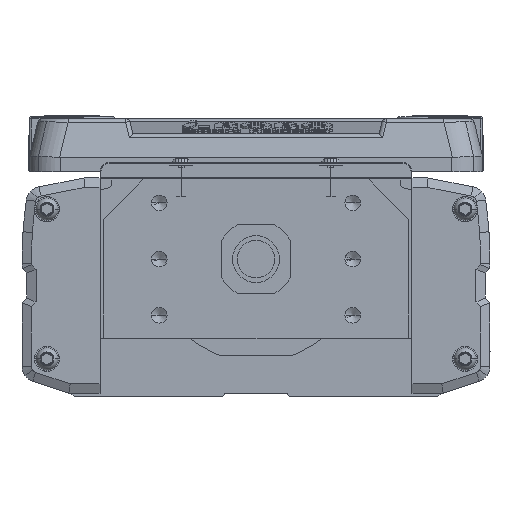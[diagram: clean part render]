
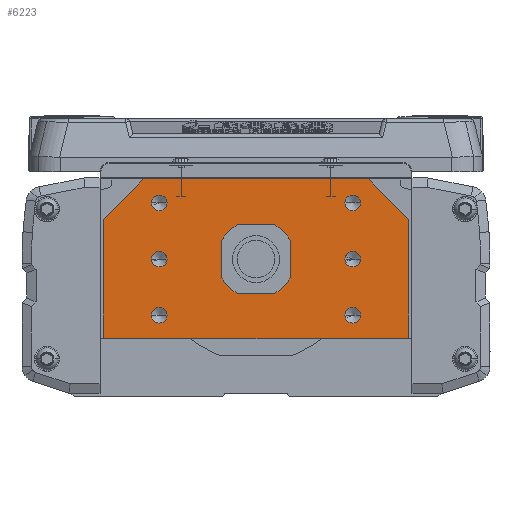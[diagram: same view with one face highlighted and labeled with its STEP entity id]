
A CAD part, left-side view. The second image highlights one B-rep face of the part: STEP entity #6223.
In plain terms, the highlighted planar face has unit normal (-1, 0, 0).
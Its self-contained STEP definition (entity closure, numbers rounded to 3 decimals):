
#6223=ADVANCED_FACE('',(#12692,#12693,#12694,#12695,#12696,#12697,#12698,#12699),#12700,.F.);
#12692=FACE_OUTER_BOUND('',#20624,.T.);
#12693=FACE_BOUND('',#20625,.T.);
#12694=FACE_BOUND('',#20626,.T.);
#12695=FACE_BOUND('',#20627,.T.);
#12696=FACE_BOUND('',#20628,.T.);
#12697=FACE_BOUND('',#20629,.T.);
#12698=FACE_BOUND('',#20630,.T.);
#12699=FACE_BOUND('',#20631,.T.);
#12700=PLANE('',#20632);
#20624=EDGE_LOOP('',(#38468,#38469,#38470,#38471,#38472,#38473,#38474,#38475));
#20625=EDGE_LOOP('',(#38476,#38477));
#20626=EDGE_LOOP('',(#38478,#38479));
#20627=EDGE_LOOP('',(#38480,#38481));
#20628=EDGE_LOOP('',(#38482,#38483));
#20629=EDGE_LOOP('',(#38484,#38485));
#20630=EDGE_LOOP('',(#38486,#38487));
#20631=EDGE_LOOP('',(#38488,#38489));
#20632=AXIS2_PLACEMENT_3D('',#38490,#38491,#38492);
#38468=ORIENTED_EDGE('',*,*,#46884,.F.);
#38469=ORIENTED_EDGE('',*,*,#43631,.F.);
#38470=ORIENTED_EDGE('',*,*,#46536,.F.);
#38471=ORIENTED_EDGE('',*,*,#46698,.F.);
#38472=ORIENTED_EDGE('',*,*,#46786,.F.);
#38473=ORIENTED_EDGE('',*,*,#45275,.F.);
#38474=ORIENTED_EDGE('',*,*,#47259,.F.);
#38475=ORIENTED_EDGE('',*,*,#47218,.F.);
#38476=ORIENTED_EDGE('',*,*,#45951,.T.);
#38477=ORIENTED_EDGE('',*,*,#46352,.T.);
#38478=ORIENTED_EDGE('',*,*,#46280,.T.);
#38479=ORIENTED_EDGE('',*,*,#47260,.T.);
#38480=ORIENTED_EDGE('',*,*,#47120,.T.);
#38481=ORIENTED_EDGE('',*,*,#45205,.T.);
#38482=ORIENTED_EDGE('',*,*,#46343,.T.);
#38483=ORIENTED_EDGE('',*,*,#42285,.T.);
#38484=ORIENTED_EDGE('',*,*,#44521,.T.);
#38485=ORIENTED_EDGE('',*,*,#44351,.T.);
#38486=ORIENTED_EDGE('',*,*,#46139,.T.);
#38487=ORIENTED_EDGE('',*,*,#45040,.T.);
#38488=ORIENTED_EDGE('',*,*,#43405,.F.);
#38489=ORIENTED_EDGE('',*,*,#47174,.F.);
#38490=CARTESIAN_POINT('',(0.,0.275,-2.548));
#38491=DIRECTION('',(1.0,0.,0.));
#38492=DIRECTION('',(0.,1.0,0.));
#42285=EDGE_CURVE('',#51152,#51150,#51153,.T.);
#43405=EDGE_CURVE('',#52966,#52961,#52968,.F.);
#43631=EDGE_CURVE('',#53308,#53304,#53310,.T.);
#44351=EDGE_CURVE('',#54378,#54376,#54379,.T.);
#44521=EDGE_CURVE('',#54376,#54378,#54610,.T.);
#45040=EDGE_CURVE('',#55318,#55316,#55319,.T.);
#45205=EDGE_CURVE('',#55550,#55548,#55551,.T.);
#45275=EDGE_CURVE('',#55645,#55648,#55649,.T.);
#45951=EDGE_CURVE('',#56539,#56541,#56543,.T.);
#46139=EDGE_CURVE('',#55316,#55318,#56775,.T.);
#46280=EDGE_CURVE('',#56937,#56939,#56941,.T.);
#46343=EDGE_CURVE('',#51150,#51152,#57011,.T.);
#46352=EDGE_CURVE('',#56541,#56539,#57020,.T.);
#46536=EDGE_CURVE('',#57230,#53308,#57232,.T.);
#46698=EDGE_CURVE('',#57418,#57230,#57420,.T.);
#46786=EDGE_CURVE('',#55648,#57418,#57517,.T.);
#46884=EDGE_CURVE('',#53304,#57621,#57622,.T.);
#47120=EDGE_CURVE('',#55548,#55550,#57876,.T.);
#47174=EDGE_CURVE('',#52961,#52966,#57933,.F.);
#47218=EDGE_CURVE('',#57621,#57980,#57981,.T.);
#47259=EDGE_CURVE('',#57980,#55645,#58022,.T.);
#47260=EDGE_CURVE('',#56939,#56937,#58023,.T.);
#51150=VERTEX_POINT('',#63232);
#51152=VERTEX_POINT('',#63235);
#51153=CIRCLE('',#63236,2.5);
#52961=VERTEX_POINT('',#65734);
#52966=VERTEX_POINT('',#65740);
#52968=CIRCLE('',#65743,7.5);
#53304=VERTEX_POINT('',#66210);
#53308=VERTEX_POINT('',#66216);
#53310=LINE('',#66219,#66220);
#54376=VERTEX_POINT('',#67667);
#54378=VERTEX_POINT('',#67670);
#54379=CIRCLE('',#67671,2.5);
#54610=CIRCLE('',#68010,2.5);
#55316=VERTEX_POINT('',#69441);
#55318=VERTEX_POINT('',#69444);
#55319=CIRCLE('',#69445,2.5);
#55548=VERTEX_POINT('',#69738);
#55550=VERTEX_POINT('',#69741);
#55551=CIRCLE('',#69742,2.5);
#55645=VERTEX_POINT('',#69853);
#55648=VERTEX_POINT('',#69857);
#55649=LINE('',#69858,#69859);
#56539=VERTEX_POINT('',#71115);
#56541=VERTEX_POINT('',#71118);
#56543=CIRCLE('',#71121,2.5);
#56775=CIRCLE('',#71481,2.5);
#56937=VERTEX_POINT('',#71714);
#56939=VERTEX_POINT('',#71717);
#56941=CIRCLE('',#71720,2.5);
#57011=CIRCLE('',#71836,2.5);
#57020=CIRCLE('',#71846,2.5);
#57230=VERTEX_POINT('',#72170);
#57232=LINE('',#72173,#72174);
#57418=VERTEX_POINT('',#72456);
#57420=LINE('',#72459,#72460);
#57517=LINE('',#72582,#72583);
#57621=VERTEX_POINT('',#72736);
#57622=LINE('',#72737,#72738);
#57876=CIRCLE('',#73309,2.5);
#57933=CIRCLE('',#73379,7.5);
#57980=VERTEX_POINT('',#73437);
#57981=LINE('',#73438,#73439);
#58022=LINE('',#73489,#73490);
#58023=CIRCLE('',#73491,2.5);
#63232=CARTESIAN_POINT('',(0.,-33.5,18.));
#63235=CARTESIAN_POINT('',(0.,-28.5,18.));
#63236=AXIS2_PLACEMENT_3D('',#76801,#76802,#76803);
#65734=CARTESIAN_POINT('',(0.,-7.5,0.));
#65740=CARTESIAN_POINT('',(0.,7.5,0.));
#65743=AXIS2_PLACEMENT_3D('',#78397,#78398,#78399);
#66210=CARTESIAN_POINT('',(0.,49.,12.7));
#66216=CARTESIAN_POINT('',(0.,49.,-25.));
#66219=CARTESIAN_POINT('',(0.,49.,-25.));
#66220=VECTOR('',#78676,10.0);
#67667=CARTESIAN_POINT('',(0.,33.5,0.));
#67670=CARTESIAN_POINT('',(0.,28.5,0.));
#67671=AXIS2_PLACEMENT_3D('',#79647,#79648,#79649);
#68010=AXIS2_PLACEMENT_3D('',#79873,#79874,#79875);
#69441=CARTESIAN_POINT('',(0.,-33.5,0.));
#69444=CARTESIAN_POINT('',(0.,-28.5,0.));
#69445=AXIS2_PLACEMENT_3D('',#80475,#80476,#80477);
#69738=CARTESIAN_POINT('',(0.,33.5,18.));
#69741=CARTESIAN_POINT('',(0.,28.5,18.));
#69742=AXIS2_PLACEMENT_3D('',#80714,#80715,#80716);
#69853=CARTESIAN_POINT('',(0.,-49.,12.7));
#69857=CARTESIAN_POINT('',(0.,-49.,-25.));
#69858=CARTESIAN_POINT('',(0.,-49.,-14.));
#69859=VECTOR('',#80849,10.0);
#71115=CARTESIAN_POINT('',(0.,33.5,-18.));
#71118=CARTESIAN_POINT('',(0.,28.5,-18.));
#71121=AXIS2_PLACEMENT_3D('',#81645,#81646,#81647);
#71481=AXIS2_PLACEMENT_3D('',#81873,#81874,#81875);
#71714=CARTESIAN_POINT('',(0.,-33.5,-18.));
#71717=CARTESIAN_POINT('',(0.,-28.5,-18.));
#71720=AXIS2_PLACEMENT_3D('',#82021,#82022,#82023);
#71836=AXIS2_PLACEMENT_3D('',#82094,#82095,#82096);
#71846=AXIS2_PLACEMENT_3D('',#82101,#82102,#82103);
#72170=CARTESIAN_POINT('',(0.,48.5,-25.5));
#72173=CARTESIAN_POINT('',(0.,48.5,-25.5));
#72174=VECTOR('',#82281,10.0);
#72456=CARTESIAN_POINT('',(0.,-48.5,-25.5));
#72459=CARTESIAN_POINT('',(0.,0.,-25.5));
#72460=VECTOR('',#82468,10.0);
#72582=CARTESIAN_POINT('',(0.,-49.,-25.));
#72583=VECTOR('',#82536,10.0);
#72736=CARTESIAN_POINT('',(0.,36.,25.7));
#72737=CARTESIAN_POINT('',(0.,37.381,24.319));
#72738=VECTOR('',#82608,10.);
#73309=AXIS2_PLACEMENT_3D('',#82765,#82766,#82767);
#73379=AXIS2_PLACEMENT_3D('',#82799,#82800,#82801);
#73437=CARTESIAN_POINT('',(0.,-36.,25.7));
#73438=CARTESIAN_POINT('',(0.,34.5,25.7));
#73439=VECTOR('',#82825,10.0);
#73489=CARTESIAN_POINT('',(0.,-37.243,24.457));
#73490=VECTOR('',#82850,10.0);
#73491=AXIS2_PLACEMENT_3D('',#82851,#82852,#82853);
#76801=CARTESIAN_POINT('',(0.,-31.,18.));
#76802=DIRECTION('',(1.0,0.,0.));
#76803=DIRECTION('',(0.,-1.0,0.));
#78397=CARTESIAN_POINT('',(0.,0.,0.));
#78398=DIRECTION('',(1.0,0.,0.));
#78399=DIRECTION('',(0.,-1.0,0.));
#78676=DIRECTION('',(0.,0.,1.0));
#79647=CARTESIAN_POINT('',(0.,31.,0.));
#79648=DIRECTION('',(1.0,0.,0.));
#79649=DIRECTION('',(0.,1.0,0.));
#79873=CARTESIAN_POINT('',(0.,31.,0.));
#79874=DIRECTION('',(1.0,0.,0.));
#79875=DIRECTION('',(0.,1.0,0.));
#80475=CARTESIAN_POINT('',(0.,-31.,0.));
#80476=DIRECTION('',(1.0,0.,0.));
#80477=DIRECTION('',(0.,-1.0,0.));
#80714=CARTESIAN_POINT('',(0.,31.,18.));
#80715=DIRECTION('',(1.0,0.,0.));
#80716=DIRECTION('',(0.,1.0,0.));
#80849=DIRECTION('',(0.,0.,-1.0));
#81645=CARTESIAN_POINT('',(0.,31.,-18.));
#81646=DIRECTION('',(1.0,0.,0.));
#81647=DIRECTION('',(0.,1.0,0.));
#81873=CARTESIAN_POINT('',(0.,-31.,0.));
#81874=DIRECTION('',(1.0,0.,0.));
#81875=DIRECTION('',(0.,-1.0,0.));
#82021=CARTESIAN_POINT('',(0.,-31.,-18.));
#82022=DIRECTION('',(1.0,0.,0.));
#82023=DIRECTION('',(0.,-1.0,0.));
#82094=CARTESIAN_POINT('',(0.,-31.,18.));
#82095=DIRECTION('',(1.0,0.,0.));
#82096=DIRECTION('',(0.,-1.0,0.));
#82101=CARTESIAN_POINT('',(0.,31.,-18.));
#82102=DIRECTION('',(1.0,0.,0.));
#82103=DIRECTION('',(0.,1.0,0.));
#82281=DIRECTION('',(0.,0.707,0.707));
#82468=DIRECTION('',(0.,1.0,0.));
#82536=DIRECTION('',(0.,0.707,-0.707));
#82608=DIRECTION('',(0.,-0.707,0.707));
#82765=CARTESIAN_POINT('',(0.,31.,18.));
#82766=DIRECTION('',(1.0,0.,0.));
#82767=DIRECTION('',(0.,1.0,0.));
#82799=CARTESIAN_POINT('',(0.,0.,0.));
#82800=DIRECTION('',(1.0,0.,0.));
#82801=DIRECTION('',(0.,-1.0,0.));
#82825=DIRECTION('',(0.,-1.0,0.));
#82850=DIRECTION('',(0.,-0.707,-0.707));
#82851=CARTESIAN_POINT('',(0.,-31.,-18.));
#82852=DIRECTION('',(1.0,0.,0.));
#82853=DIRECTION('',(0.,-1.0,0.));
